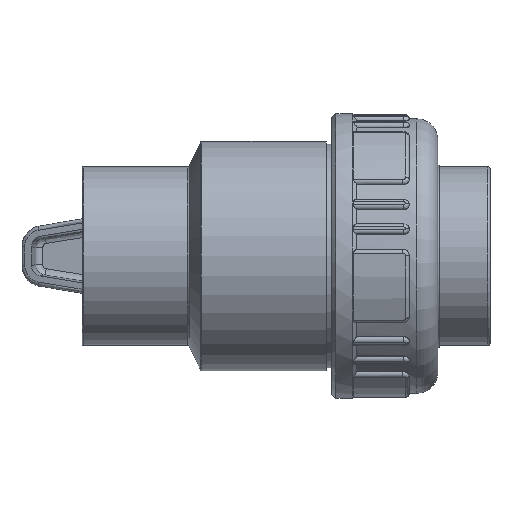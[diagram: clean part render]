
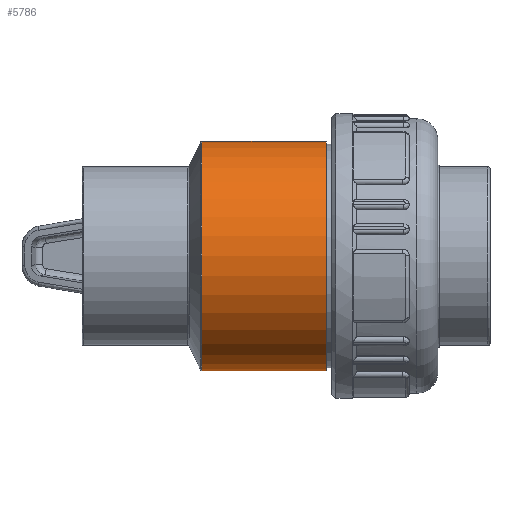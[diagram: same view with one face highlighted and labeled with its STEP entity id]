
A CAD part, left-side view. The second image highlights one B-rep face of the part: STEP entity #5786.
In plain terms, the highlighted cylindrical face has radius 27.35 mm (diameter 54.7 mm), a full revolution.
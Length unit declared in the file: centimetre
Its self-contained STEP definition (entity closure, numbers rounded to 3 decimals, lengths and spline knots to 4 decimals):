
#187=FACE_BOUND('',#769,.T.);
#188=FACE_BOUND('',#770,.T.);
#409=FACE_OUTER_BOUND('',#768,.T.);
#768=EDGE_LOOP('',(#3952));
#769=EDGE_LOOP('',(#3953));
#770=EDGE_LOOP('',(#3954));
#1748=CIRCLE('',#6209,2.735);
#1749=CIRCLE('',#6210,2.735);
#2030=B_SPLINE_CURVE_WITH_KNOTS('',3,(#9426,#9427,#9428,#9429,#9430,#9431,
#9432,#9433,#9434,#9435,#9436,#9437,#9438,#9439,#9440,#9441,#9442,#9443),
 .UNSPECIFIED.,.T.,.F.,(4,1,1,1,1,1,1,1,1,1,1,1,1,1,1,4),(-7.5641,
-7.0238,-6.4835,-5.9432,-5.4029,
-4.8626,-4.3223,-3.9622,-3.602,
-3.2418,-2.8816,-2.1612,-1.6209,
-1.0806,-0.5403,0.),
 .UNSPECIFIED.);
#2320=VERTEX_POINT('',#9405);
#2332=VERTEX_POINT('',#9479);
#2333=VERTEX_POINT('',#9481);
#2923=EDGE_CURVE('',#2320,#2320,#2030,.T.);
#2935=EDGE_CURVE('',#2332,#2332,#1748,.T.);
#2936=EDGE_CURVE('',#2333,#2333,#1749,.T.);
#3952=ORIENTED_EDGE('',*,*,#2935,.F.);
#3953=ORIENTED_EDGE('',*,*,#2936,.T.);
#3954=ORIENTED_EDGE('',*,*,#2923,.F.);
#5270=CYLINDRICAL_SURFACE('',#6208,2.735);
#5786=ADVANCED_FACE('',(#409,#187,#188),#5270,.T.);
#6208=AXIS2_PLACEMENT_3D('',#9478,#7023,#7024);
#6209=AXIS2_PLACEMENT_3D('',#9480,#7025,#7026);
#6210=AXIS2_PLACEMENT_3D('',#9482,#7027,#7028);
#7023=DIRECTION('center_axis',(0.,1.,0.));
#7024=DIRECTION('ref_axis',(-1.,0.,0.));
#7025=DIRECTION('center_axis',(0.,1.,0.));
#7026=DIRECTION('ref_axis',(1.,0.,0.));
#7027=DIRECTION('center_axis',(0.,1.,0.));
#7028=DIRECTION('ref_axis',(1.,0.,0.));
#9405=CARTESIAN_POINT('',(2.432,0.,1.2513));
#9426=CARTESIAN_POINT('Ctrl Pts',(2.4318,0.,
1.2514));
#9427=CARTESIAN_POINT('Ctrl Pts',(2.4318,-0.1915,1.2514));
#9428=CARTESIAN_POINT('Ctrl Pts',(2.4805,-0.5746,1.162));
#9429=CARTESIAN_POINT('Ctrl Pts',(2.6263,-1.0184,0.8093));
#9430=CARTESIAN_POINT('Ctrl Pts',(2.7393,-1.2755,0.2944));
#9431=CARTESIAN_POINT('Ctrl Pts',(2.7395,-1.2753,-0.2945));
#9432=CARTESIAN_POINT('Ctrl Pts',(2.626,-1.0188,-0.8092));
#9433=CARTESIAN_POINT('Ctrl Pts',(2.4971,-0.6231,-1.1227));
#9434=CARTESIAN_POINT('Ctrl Pts',(2.4297,-0.1948,-1.2559));
#9435=CARTESIAN_POINT('Ctrl Pts',(2.4296,0.1949,-1.2561));
#9436=CARTESIAN_POINT('Ctrl Pts',(2.4873,0.5619,-1.1414));
#9437=CARTESIAN_POINT('Ctrl Pts',(2.6065,0.9763,-0.8613));
#9438=CARTESIAN_POINT('Ctrl Pts',(2.7399,1.2752,-0.3604));
#9439=CARTESIAN_POINT('Ctrl Pts',(2.7392,1.2756,0.2946));
#9440=CARTESIAN_POINT('Ctrl Pts',(2.6263,1.0183,0.809));
#9441=CARTESIAN_POINT('Ctrl Pts',(2.4805,0.5746,1.1621));
#9442=CARTESIAN_POINT('Ctrl Pts',(2.4318,0.1915,1.2515));
#9443=CARTESIAN_POINT('Ctrl Pts',(2.4318,0.,
1.2514));
#9478=CARTESIAN_POINT('Origin',(0.,0.145,0.));
#9479=CARTESIAN_POINT('',(-2.735,1.6211,0.));
#9480=CARTESIAN_POINT('Origin',(0.,1.6211,0.));
#9481=CARTESIAN_POINT('',(-2.735,-1.35,0.));
#9482=CARTESIAN_POINT('Origin',(0.,-1.35,0.));
